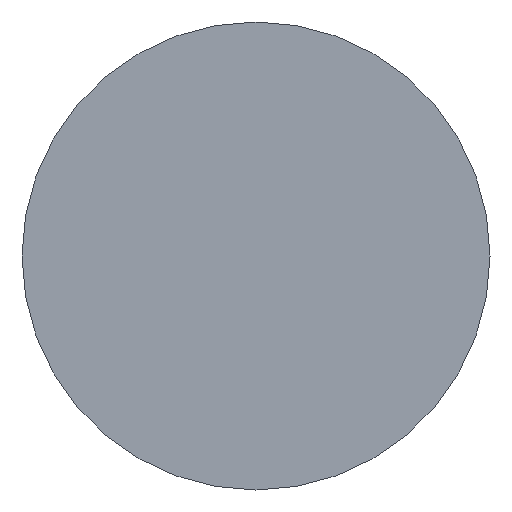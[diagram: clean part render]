
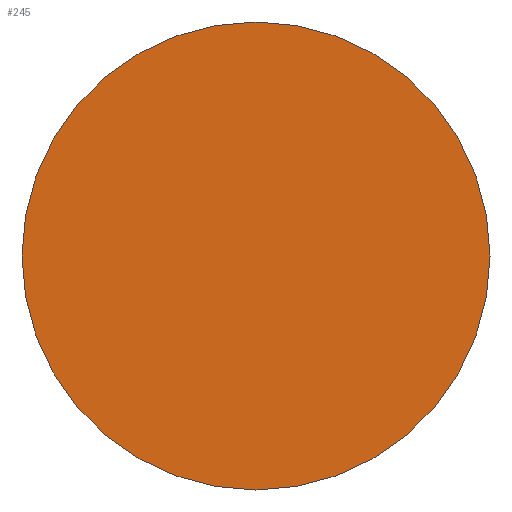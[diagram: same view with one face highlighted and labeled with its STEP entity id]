
A CAD part, left-side view. The second image highlights one B-rep face of the part: STEP entity #245.
In plain terms, the highlighted planar face has unit normal (-1, 0, 0).
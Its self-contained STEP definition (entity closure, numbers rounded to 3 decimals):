
#11 = EDGE_CURVE ( 'NONE', #279, #197, #412, .T. ) ;
#23 = CARTESIAN_POINT ( 'NONE',  ( -100.75, 31.69, 62.909 ) ) ;
#102 = EDGE_CURVE ( 'NONE', #197, #279, #589, .T. ) ;
#155 = ORIENTED_EDGE ( 'NONE', *, *, #102, .T. ) ;
#173 = DIRECTION ( 'NONE',  ( -1., 0., 0. ) ) ;
#184 = DIRECTION ( 'NONE',  ( -1., 0., 0. ) ) ;
#197 = VERTEX_POINT ( 'NONE', #473 ) ;
#245 = ADVANCED_FACE ( 'NONE', ( #387 ), #533, .T. ) ;
#279 = VERTEX_POINT ( 'NONE', #497 ) ;
#301 = DIRECTION ( 'NONE',  ( 0., -1., 0. ) ) ;
#302 = AXIS2_PLACEMENT_3D ( 'NONE', #23, #173, #630 ) ;
#305 = DIRECTION ( 'NONE',  ( -1., 0., 0. ) ) ;
#336 = CARTESIAN_POINT ( 'NONE',  ( -100.75, 31.69, 62.909 ) ) ;
#363 = AXIS2_PLACEMENT_3D ( 'NONE', #454, #305, #301 ) ;
#384 = EDGE_LOOP ( 'NONE', ( #446, #155 ) ) ;
#387 = FACE_OUTER_BOUND ( 'NONE', #384, .T. ) ;
#412 = CIRCLE ( 'NONE', #363, 8.5 ) ;
#431 = DIRECTION ( 'NONE',  ( 0., -1., 0. ) ) ;
#446 = ORIENTED_EDGE ( 'NONE', *, *, #11, .T. ) ;
#454 = CARTESIAN_POINT ( 'NONE',  ( -100.75, 31.69, 62.909 ) ) ;
#473 = CARTESIAN_POINT ( 'NONE',  ( -100.75, 23.19, 62.909 ) ) ;
#497 = CARTESIAN_POINT ( 'NONE',  ( -100.75, 40.19, 62.909 ) ) ;
#533 = PLANE ( 'NONE',  #644 ) ;
#589 = CIRCLE ( 'NONE', #302, 8.5 ) ;
#630 = DIRECTION ( 'NONE',  ( 0., -1., 0. ) ) ;
#644 = AXIS2_PLACEMENT_3D ( 'NONE', #336, #184, #431 ) ;
